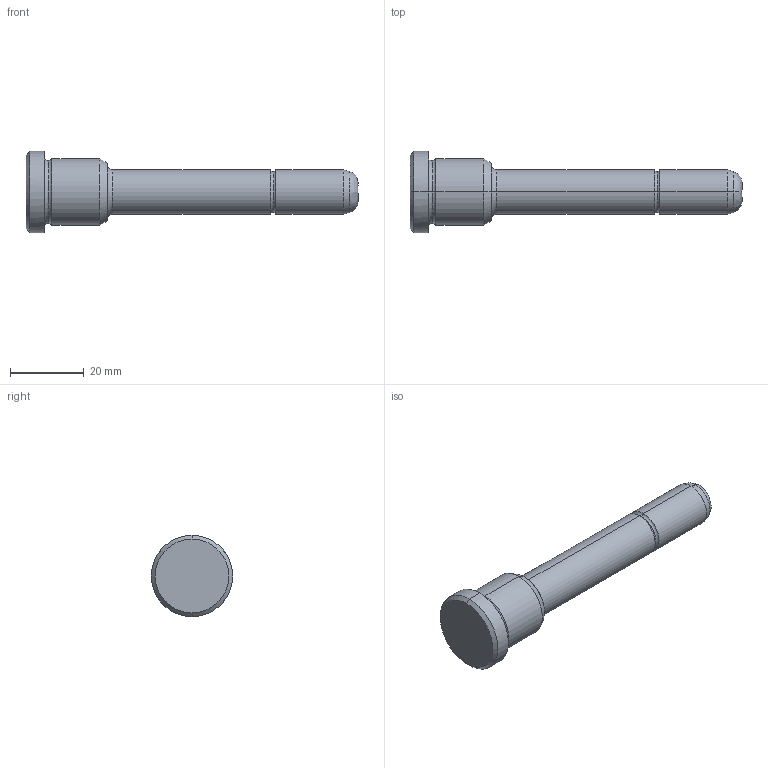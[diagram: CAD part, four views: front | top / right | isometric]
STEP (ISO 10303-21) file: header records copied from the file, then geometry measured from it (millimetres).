
FILE_DESCRIPTION(('CATIA V5 STEP Exchange'),'2;1');
FILE_NAME('C:\Users\Utente\Desktop\IO LAVORO\3D X SITO CF\X SITO\PLASTICA\351\351-12X22X90.stp','2021-08-17T11:46:32+00:00',('none'),('none'),'CATIA Version 5 Release 20 GA (IN-10)','CATIA V5 STEP AP203','none');
FILE_SCHEMA(('CONFIG_CONTROL_DESIGN'));
Length unit declared in the file: millimetre
Products named in the file (1): 351-12X22X90
Bounding box: 90 x 22 x 22 mm (x, y, z)
Volume: 13676.1 mm3; surface area: 4470.6 mm2
Topology: 1 solids, 1 shells, 30 faces, 86 edges, 60 vertices
Faces by surface type: torus 10, cylinder 8, cone 6, plane 4, bspline 2
Entity records: 1128 total; most frequent: CARTESIAN_POINT 343, ORIENTED_EDGE 172, DIRECTION 124, EDGE_CURVE 86, AXIS2_PLACEMENT_3D 83, VERTEX_POINT 60, CIRCLE 54, EDGE_LOOP 32
